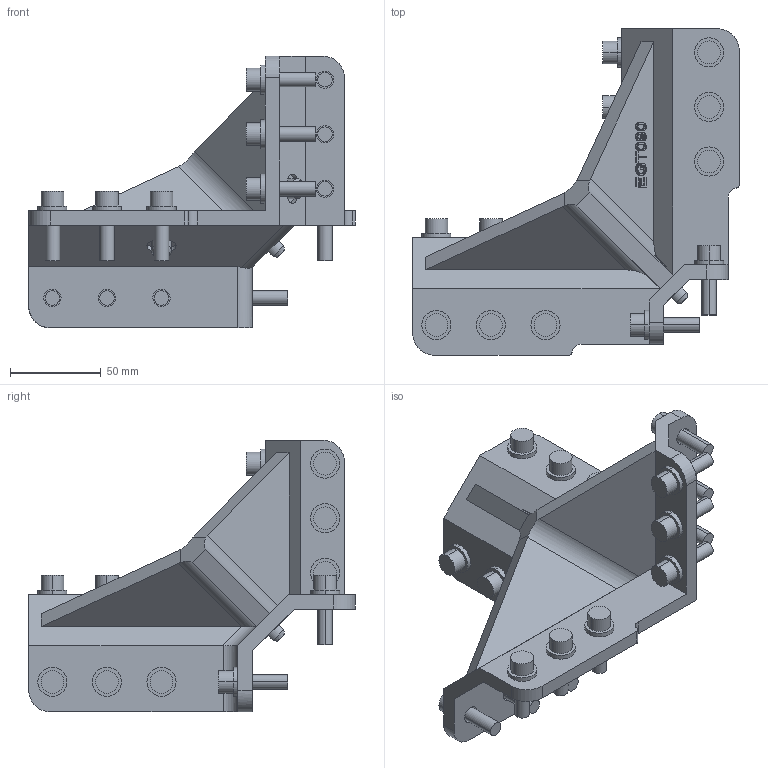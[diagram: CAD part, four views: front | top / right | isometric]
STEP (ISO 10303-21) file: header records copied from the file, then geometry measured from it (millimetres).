
FILE_DESCRIPTION(('CATIA V5 STEP Exchange'),'2;1');
FILE_NAME('C:\Users\User\Desktop\stp\EGT090.stp','2017-07-21T01:32:14+00:00',('none'),('none'),'CATIA Version 5 Release 21 GA (IN-10)','CATIA V5 STEP AP203','none');
FILE_SCHEMA(('CONFIG_CONTROL_DESIGN'));
Length unit declared in the file: millimetre
Products named in the file (1): EGT090
Bounding box: 179.57 x 179.57 x 149.57 mm (x, y, z)
Volume: 399718 mm3; surface area: 123057.7 mm2
Topology: 39 solids, 39 shells, 1470 faces, 4036 edges, 2686 vertices
Faces by surface type: plane 1176, cylinder 188, extrusion 100, cone 6
Entity records: 47094 total; most frequent: CARTESIAN_POINT 10097, ORIENTED_EDGE 8072, DIRECTION 6624, EDGE_CURVE 4036, VECTOR 3535, LINE 3435, VERTEX_POINT 2686, AXIS2_PLACEMENT_3D 1725
